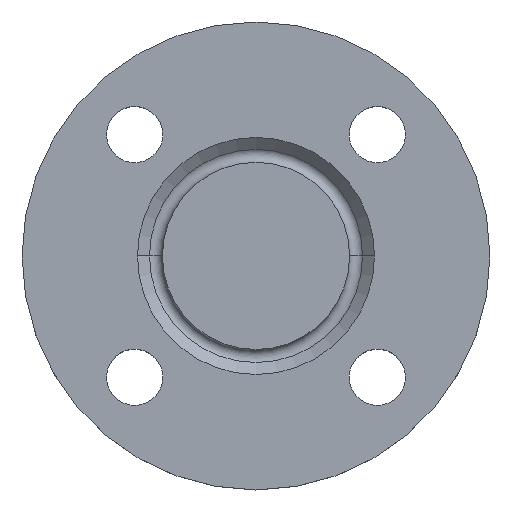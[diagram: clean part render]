
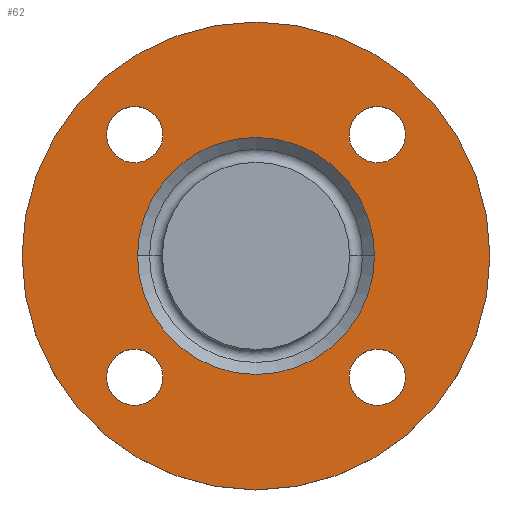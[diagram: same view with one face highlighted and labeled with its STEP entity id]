
A CAD part, top view. The second image highlights one B-rep face of the part: STEP entity #62.
In plain terms, the highlighted planar face has unit normal (0, 0, 1).
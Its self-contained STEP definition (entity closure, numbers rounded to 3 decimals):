
#1 = EDGE_CURVE ( 'NONE', #558, #583, #275, .T. ) ;
#7 = AXIS2_PLACEMENT_3D ( 'NONE', #629, #640, #641 ) ;
#10 = EDGE_CURVE ( 'NONE', #583, #558, #69, .T. ) ;
#32 = AXIS2_PLACEMENT_3D ( 'NONE', #728, #729, #730 ) ;
#41 = AXIS2_PLACEMENT_3D ( 'NONE', #651, #652, #653 ) ;
#52 = DIRECTION ( 'NONE',  ( 1., 0., 0. ) ) ;
#53 = DIRECTION ( 'NONE',  ( 0., 0., -1. ) ) ;
#58 = EDGE_CURVE ( 'NONE', #561, #394, #647, .T. ) ;
#62 = ADVANCED_FACE ( 'NONE', ( #642, #643, #644, #645, #646, #649 ), #650, .T. ) ;
#69 = CIRCLE ( 'NONE', #164, 9. ) ;
#77 = CARTESIAN_POINT ( 'NONE',  ( -38.891, -38.891, -2. ) ) ;
#114 = CARTESIAN_POINT ( 'NONE',  ( -47.891, -38.891, -2. ) ) ;
#129 = EDGE_CURVE ( 'NONE', #582, #545, #250, .T. ) ;
#132 = CARTESIAN_POINT ( 'NONE',  ( 38., 0., -2. ) ) ;
#147 = CARTESIAN_POINT ( 'NONE',  ( -47.891, 38.891, -2. ) ) ;
#154 = CARTESIAN_POINT ( 'NONE',  ( -75., 0., -2. ) ) ;
#157 = EDGE_CURVE ( 'NONE', #381, #564, #281, .T. ) ;
#158 = EDGE_CURVE ( 'NONE', #569, #542, #288, .T. ) ;
#162 = EDGE_CURVE ( 'NONE', #432, #471, #210, .T. ) ;
#164 = AXIS2_PLACEMENT_3D ( 'NONE', #602, #604, #606 ) ;
#175 = CARTESIAN_POINT ( 'NONE',  ( -29.891, 38.891, -2. ) ) ;
#178 = CARTESIAN_POINT ( 'NONE',  ( 75., 0., -2. ) ) ;
#179 = CIRCLE ( 'NONE', #193, 9. ) ;
#193 = AXIS2_PLACEMENT_3D ( 'NONE', #77, #53, #52 ) ;
#210 = CIRCLE ( 'NONE', #227, 38. ) ;
#227 = AXIS2_PLACEMENT_3D ( 'NONE', #673, #674, #675 ) ;
#237 = EDGE_CURVE ( 'NONE', #564, #381, #249, .T. ) ;
#239 = EDGE_CURVE ( 'NONE', #471, #432, #550, .T. ) ;
#246 = AXIS2_PLACEMENT_3D ( 'NONE', #658, #659, #660 ) ;
#249 = CIRCLE ( 'NONE', #32, 9. ) ;
#250 = CIRCLE ( 'NONE', #246, 9. ) ;
#266 = CARTESIAN_POINT ( 'NONE',  ( 38.891, -38.891, -2. ) ) ;
#267 = DIRECTION ( 'NONE',  ( 0., 0., -1. ) ) ;
#268 = DIRECTION ( 'NONE',  ( 1., 0., 0. ) ) ;
#272 = CARTESIAN_POINT ( 'NONE',  ( 47.891, 38.891, -2. ) ) ;
#274 = AXIS2_PLACEMENT_3D ( 'NONE', #593, #594, #595 ) ;
#275 = CIRCLE ( 'NONE', #274, 9. ) ;
#276 = AXIS2_PLACEMENT_3D ( 'NONE', #735, #736, #737 ) ;
#281 = CIRCLE ( 'NONE', #304, 9. ) ;
#284 = CARTESIAN_POINT ( 'NONE',  ( 47.891, -38.891, -2. ) ) ;
#288 = CIRCLE ( 'NONE', #290, 75. ) ;
#290 = AXIS2_PLACEMENT_3D ( 'NONE', #669, #671, #672 ) ;
#304 = AXIS2_PLACEMENT_3D ( 'NONE', #666, #667, #668 ) ;
#305 = CIRCLE ( 'NONE', #360, 75. ) ;
#307 = CARTESIAN_POINT ( 'NONE',  ( 0., 0., -2. ) ) ;
#308 = DIRECTION ( 'NONE',  ( 0., 0., -1. ) ) ;
#309 = DIRECTION ( 'NONE',  ( -1., 0., 0. ) ) ;
#319 = CARTESIAN_POINT ( 'NONE',  ( -38., 0., -2. ) ) ;
#348 = CARTESIAN_POINT ( 'NONE',  ( 29.891, 38.891, -2. ) ) ;
#360 = AXIS2_PLACEMENT_3D ( 'NONE', #307, #308, #309 ) ;
#363 = CIRCLE ( 'NONE', #382, 9. ) ;
#367 = CARTESIAN_POINT ( 'NONE',  ( -29.891, -38.891, -2. ) ) ;
#371 = CARTESIAN_POINT ( 'NONE',  ( 29.891, -38.891, -2. ) ) ;
#374 = EDGE_CURVE ( 'NONE', #394, #561, #363, .T. ) ;
#381 = VERTEX_POINT ( 'NONE', #272 ) ;
#382 = AXIS2_PLACEMENT_3D ( 'NONE', #266, #267, #268 ) ;
#389 = EDGE_LOOP ( 'NONE', ( #477, #479 ) ) ;
#393 = EDGE_LOOP ( 'NONE', ( #482, #483 ) ) ;
#394 = VERTEX_POINT ( 'NONE', #284 ) ;
#418 = EDGE_CURVE ( 'NONE', #542, #569, #305, .T. ) ;
#432 = VERTEX_POINT ( 'NONE', #319 ) ;
#469 = ORIENTED_EDGE ( 'NONE', *, *, #374, .T. ) ;
#470 = ORIENTED_EDGE ( 'NONE', *, *, #58, .T. ) ;
#471 = VERTEX_POINT ( 'NONE', #132 ) ;
#473 = ORIENTED_EDGE ( 'NONE', *, *, #648, .T. ) ;
#474 = ORIENTED_EDGE ( 'NONE', *, *, #129, .T. ) ;
#475 = ORIENTED_EDGE ( 'NONE', *, *, #1, .T. ) ;
#476 = ORIENTED_EDGE ( 'NONE', *, *, #10, .T. ) ;
#477 = ORIENTED_EDGE ( 'NONE', *, *, #157, .T. ) ;
#479 = ORIENTED_EDGE ( 'NONE', *, *, #237, .T. ) ;
#480 = ORIENTED_EDGE ( 'NONE', *, *, #239, .T. ) ;
#481 = ORIENTED_EDGE ( 'NONE', *, *, #162, .T. ) ;
#482 = ORIENTED_EDGE ( 'NONE', *, *, #158, .F. ) ;
#483 = ORIENTED_EDGE ( 'NONE', *, *, #418, .F. ) ;
#542 = VERTEX_POINT ( 'NONE', #154 ) ;
#545 = VERTEX_POINT ( 'NONE', #367 ) ;
#550 = CIRCLE ( 'NONE', #276, 38. ) ;
#558 = VERTEX_POINT ( 'NONE', #175 ) ;
#559 = EDGE_LOOP ( 'NONE', ( #473, #474 ) ) ;
#561 = VERTEX_POINT ( 'NONE', #371 ) ;
#564 = VERTEX_POINT ( 'NONE', #348 ) ;
#567 = EDGE_LOOP ( 'NONE', ( #469, #470 ) ) ;
#569 = VERTEX_POINT ( 'NONE', #178 ) ;
#571 = EDGE_LOOP ( 'NONE', ( #475, #476 ) ) ;
#573 = EDGE_LOOP ( 'NONE', ( #480, #481 ) ) ;
#582 = VERTEX_POINT ( 'NONE', #114 ) ;
#583 = VERTEX_POINT ( 'NONE', #147 ) ;
#593 = CARTESIAN_POINT ( 'NONE',  ( -38.891, 38.891, -2. ) ) ;
#594 = DIRECTION ( 'NONE',  ( 0., 0., -1. ) ) ;
#595 = DIRECTION ( 'NONE',  ( 1., 0., 0. ) ) ;
#602 = CARTESIAN_POINT ( 'NONE',  ( -38.891, 38.891, -2. ) ) ;
#604 = DIRECTION ( 'NONE',  ( 0., 0., -1. ) ) ;
#606 = DIRECTION ( 'NONE',  ( 1., 0., 0. ) ) ;
#629 = CARTESIAN_POINT ( 'NONE',  ( 38.891, -38.891, -2. ) ) ;
#640 = DIRECTION ( 'NONE',  ( 0., 0., -1. ) ) ;
#641 = DIRECTION ( 'NONE',  ( 1., 0., 0. ) ) ;
#642 = FACE_BOUND ( 'NONE', #567, .T. ) ;
#643 = FACE_BOUND ( 'NONE', #559, .T. ) ;
#644 = FACE_BOUND ( 'NONE', #571, .T. ) ;
#645 = FACE_BOUND ( 'NONE', #389, .T. ) ;
#646 = FACE_BOUND ( 'NONE', #573, .T. ) ;
#647 = CIRCLE ( 'NONE', #7, 9. ) ;
#648 = EDGE_CURVE ( 'NONE', #545, #582, #179, .T. ) ;
#649 = FACE_OUTER_BOUND ( 'NONE', #393, .T. ) ;
#650 = PLANE ( 'NONE',  #41 ) ;
#651 = CARTESIAN_POINT ( 'NONE',  ( 75., 0., -2. ) ) ;
#652 = DIRECTION ( 'NONE',  ( 0., 0., 1. ) ) ;
#653 = DIRECTION ( 'NONE',  ( 1., 0., 0. ) ) ;
#658 = CARTESIAN_POINT ( 'NONE',  ( -38.891, -38.891, -2. ) ) ;
#659 = DIRECTION ( 'NONE',  ( 0., 0., -1. ) ) ;
#660 = DIRECTION ( 'NONE',  ( 1., 0., 0. ) ) ;
#666 = CARTESIAN_POINT ( 'NONE',  ( 38.891, 38.891, -2. ) ) ;
#667 = DIRECTION ( 'NONE',  ( 0., 0., -1. ) ) ;
#668 = DIRECTION ( 'NONE',  ( 1., 0., 0. ) ) ;
#669 = CARTESIAN_POINT ( 'NONE',  ( 0., 0., -2. ) ) ;
#671 = DIRECTION ( 'NONE',  ( 0., 0., -1. ) ) ;
#672 = DIRECTION ( 'NONE',  ( -1., 0., 0. ) ) ;
#673 = CARTESIAN_POINT ( 'NONE',  ( 0., 0., -2. ) ) ;
#674 = DIRECTION ( 'NONE',  ( 0., 0., -1. ) ) ;
#675 = DIRECTION ( 'NONE',  ( -1., 0., 0. ) ) ;
#728 = CARTESIAN_POINT ( 'NONE',  ( 38.891, 38.891, -2. ) ) ;
#729 = DIRECTION ( 'NONE',  ( 0., 0., -1. ) ) ;
#730 = DIRECTION ( 'NONE',  ( 1., 0., 0. ) ) ;
#735 = CARTESIAN_POINT ( 'NONE',  ( 0., 0., -2. ) ) ;
#736 = DIRECTION ( 'NONE',  ( 0., 0., -1. ) ) ;
#737 = DIRECTION ( 'NONE',  ( -1., 0., 0. ) ) ;
